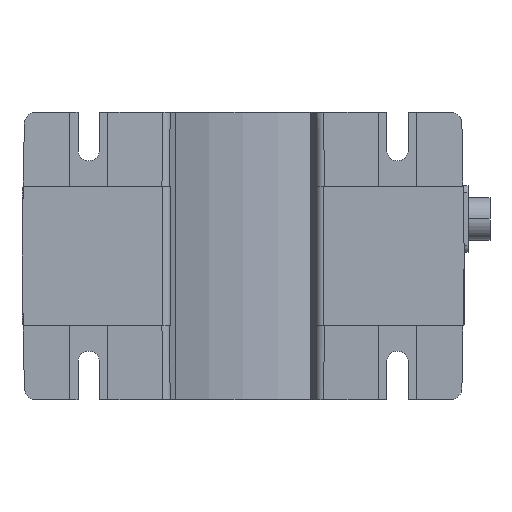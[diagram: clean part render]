
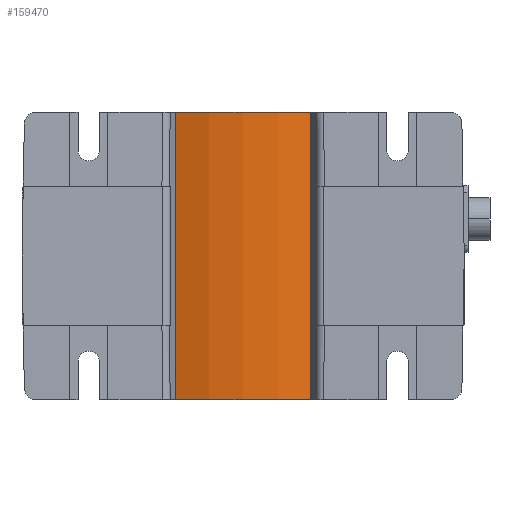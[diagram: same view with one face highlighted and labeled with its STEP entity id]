
A CAD part, front view. The second image highlights one B-rep face of the part: STEP entity #159470.
In plain terms, the highlighted cylindrical face has radius 96.5 mm (diameter 193 mm), a partial arc.
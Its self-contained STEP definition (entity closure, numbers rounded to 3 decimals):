
#12980=CARTESIAN_POINT('',(33.,-100.182,-30.));
#12990=VERTEX_POINT('',#12980);
#13040=CARTESIAN_POINT('',(33.,-100.182,
80.));
#13050=DIRECTION('',(0.,0.,-1.));
#13060=VECTOR('',#13050,1.);
#13070=LINE('',#13040,#13060);
#13080=CARTESIAN_POINT('',(33.,-100.182,110.));
#13090=VERTEX_POINT('',#13080);
#13100=EDGE_CURVE('',#13090,#12990,#13070,.T.);
#78300=CARTESIAN_POINT('',(-33.,-100.182,110.));
#78310=VERTEX_POINT('',#78300);
#78360=CARTESIAN_POINT('',(-33.,-100.182,
80.));
#78370=DIRECTION('',(0.,0.,-1.));
#78380=VECTOR('',#78370,1.);
#78390=LINE('',#78360,#78380);
#78400=CARTESIAN_POINT('',(-33.,-100.182,-30.));
#78410=VERTEX_POINT('',#78400);
#78420=EDGE_CURVE('',#78310,#78410,#78390,.T.);
#118060=CARTESIAN_POINT('',(0.,-9.5,-30.));
#118070=DIRECTION('',(0.,0.,1.));
#118080=DIRECTION('',(1.,0.,0.));
#118090=AXIS2_PLACEMENT_3D('',#118060,#118070,#118080);
#118100=CIRCLE('',#118090,96.5);
#118110=EDGE_CURVE('',#78410,#12990,#118100,.T.);
#123820=CARTESIAN_POINT('',(0.,-9.5,110.)
);
#123830=DIRECTION('',(0.,0.,-1.));
#123840=DIRECTION('',(-1.,0.,0.));
#123850=AXIS2_PLACEMENT_3D('',#123820,#123830,#123840);
#123860=CIRCLE('',#123850,96.5);
#123870=EDGE_CURVE('',#13090,#78310,#123860,.T.);
#159360=CARTESIAN_POINT('',(0.,-9.5,
80.));
#159370=DIRECTION('',(0.,0.,-1.));
#159380=DIRECTION('',(-1.,0.,0.));
#159390=AXIS2_PLACEMENT_3D('',#159360,#159370,#159380);
#159400=CYLINDRICAL_SURFACE('',#159390,96.5);
#159410=ORIENTED_EDGE('',*,*,#123870,.T.);
#159420=ORIENTED_EDGE('',*,*,#13100,.F.);
#159430=ORIENTED_EDGE('',*,*,#118110,.T.);
#159440=ORIENTED_EDGE('',*,*,#78420,.T.);
#159450=EDGE_LOOP('',(#159440,#159430,#159420,#159410));
#159460=FACE_OUTER_BOUND('',#159450,.T.);
#159470=ADVANCED_FACE('',(#159460),#159400,.T.);
